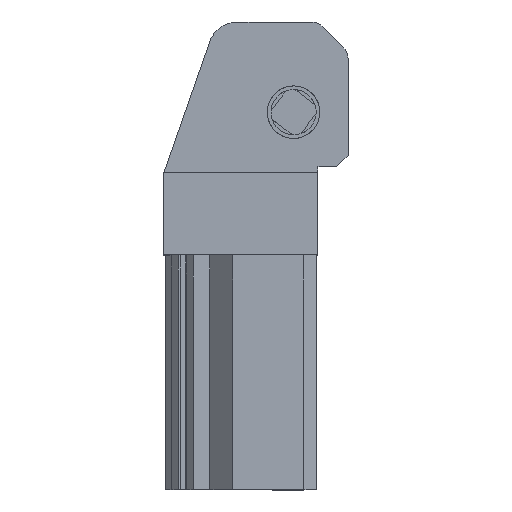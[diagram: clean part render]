
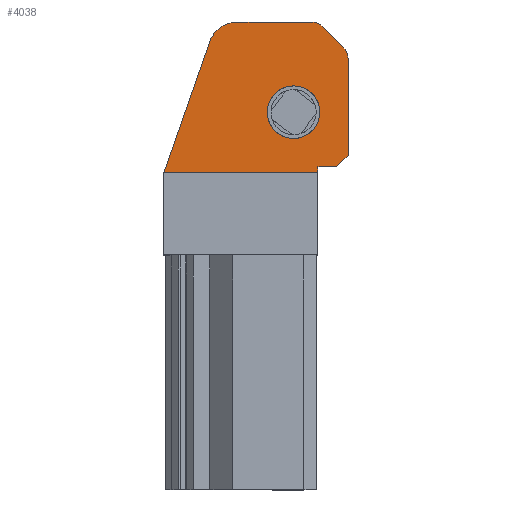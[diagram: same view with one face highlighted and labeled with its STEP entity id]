
A CAD part, top view. The second image highlights one B-rep face of the part: STEP entity #4038.
In plain terms, the highlighted planar face has unit normal (0, 0, 1).
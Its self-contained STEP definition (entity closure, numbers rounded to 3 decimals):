
#2 = LINE ( 'NONE', #3742, #6 ) ;
#6 = VECTOR ( 'NONE', #3743, 1000. ) ;
#41 = CIRCLE ( 'NONE', #2783, 4. ) ;
#48 = LINE ( 'NONE', #3886, #55 ) ;
#55 = VECTOR ( 'NONE', #3890, 1000. ) ;
#84 = LINE ( 'NONE', #3896, #86 ) ;
#86 = VECTOR ( 'NONE', #3905, 1000. ) ;
#92 = CIRCLE ( 'NONE', #2771, 7. ) ;
#107 = LINE ( 'NONE', #1857, #117 ) ;
#117 = VECTOR ( 'NONE', #1859, 1000. ) ;
#130 = LINE ( 'NONE', #1896, #132 ) ;
#132 = VECTOR ( 'NONE', #1871, 1000. ) ;
#319 = VERTEX_POINT ( 'NONE', #3791 ) ;
#390 = EDGE_LOOP ( 'NONE', ( #713, #714 ) ) ;
#413 = EDGE_LOOP ( 'NONE', ( #702, #703, #704, #705, #706, #707, #708, #709, #710, #711, #712 ) ) ;
#427 = VERTEX_POINT ( 'NONE', #3764 ) ;
#436 = VERTEX_POINT ( 'NONE', #3758 ) ;
#439 = VERTEX_POINT ( 'NONE', #3668 ) ;
#458 = VERTEX_POINT ( 'NONE', #3756 ) ;
#465 = VERTEX_POINT ( 'NONE', #3757 ) ;
#467 = VERTEX_POINT ( 'NONE', #3719 ) ;
#472 = VERTEX_POINT ( 'NONE', #3707 ) ;
#476 = VERTEX_POINT ( 'NONE', #3677 ) ;
#480 = VERTEX_POINT ( 'NONE', #3685 ) ;
#483 = VERTEX_POINT ( 'NONE', #3780 ) ;
#540 = AXIS2_PLACEMENT_3D ( 'NONE', #2327, #2332, #2333 ) ;
#560 = EDGE_CURVE ( 'NONE', #476, #458, #2209, .T. ) ;
#564 = EDGE_CURVE ( 'NONE', #483, #436, #2201, .T. ) ;
#568 = EDGE_CURVE ( 'NONE', #439, #465, #2213, .T. ) ;
#588 = EDGE_CURVE ( 'NONE', #4371, #483, #2, .T. ) ;
#613 = EDGE_CURVE ( 'NONE', #467, #319, #41, .T. ) ;
#619 = EDGE_CURVE ( 'NONE', #465, #467, #48, .T. ) ;
#638 = EDGE_CURVE ( 'NONE', #4385, #319, #84, .T. ) ;
#643 = EDGE_CURVE ( 'NONE', #427, #480, #92, .T. ) ;
#660 = EDGE_CURVE ( 'NONE', #436, #476, #107, .T. ) ;
#671 = EDGE_CURVE ( 'NONE', #458, #472, #130, .T. ) ;
#702 = ORIENTED_EDGE ( 'NONE', *, *, #619, .T. ) ;
#703 = ORIENTED_EDGE ( 'NONE', *, *, #613, .T. ) ;
#704 = ORIENTED_EDGE ( 'NONE', *, *, #638, .F. ) ;
#705 = ORIENTED_EDGE ( 'NONE', *, *, #2812, .T. ) ;
#706 = ORIENTED_EDGE ( 'NONE', *, *, #588, .T. ) ;
#707 = ORIENTED_EDGE ( 'NONE', *, *, #564, .T. ) ;
#708 = ORIENTED_EDGE ( 'NONE', *, *, #660, .T. ) ;
#709 = ORIENTED_EDGE ( 'NONE', *, *, #560, .T. ) ;
#710 = ORIENTED_EDGE ( 'NONE', *, *, #671, .T. ) ;
#711 = ORIENTED_EDGE ( 'NONE', *, *, #2819, .F. ) ;
#712 = ORIENTED_EDGE ( 'NONE', *, *, #568, .T. ) ;
#713 = ORIENTED_EDGE ( 'NONE', *, *, #643, .F. ) ;
#714 = ORIENTED_EDGE ( 'NONE', *, *, #3589, .F. ) ;
#1288 = FACE_OUTER_BOUND ( 'NONE', #413, .T. ) ;
#1306 = FACE_BOUND ( 'NONE', #390, .T. ) ;
#1555 = CIRCLE ( 'NONE', #2834, 8. ) ;
#1564 = LINE ( 'NONE', #3402, #1567 ) ;
#1567 = VECTOR ( 'NONE', #3413, 1000. ) ;
#1643 = CIRCLE ( 'NONE', #1826, 7. ) ;
#1826 = AXIS2_PLACEMENT_3D ( 'NONE', #3472, #3471, #3468 ) ;
#1857 = CARTESIAN_POINT ( 'NONE',  ( 6.5, 24., 15. ) ) ;
#1859 = DIRECTION ( 'NONE',  ( 0., 1., 0. ) ) ;
#1871 = DIRECTION ( 'NONE',  ( 0.707, 0.707, 0. ) ) ;
#1896 = CARTESIAN_POINT ( 'NONE',  ( 7.749, -18.251, 15. ) ) ;
#2200 = VECTOR ( 'NONE', #3642, 1000. ) ;
#2201 = LINE ( 'NONE', #3802, #2211 ) ;
#2209 = LINE ( 'NONE', #3762, #2200 ) ;
#2211 = VECTOR ( 'NONE', #3768, 1000. ) ;
#2213 = CIRCLE ( 'NONE', #2799, 4. ) ;
#2327 = CARTESIAN_POINT ( 'NONE',  ( -34.501, 24., 15. ) ) ;
#2330 = PLANE ( 'NONE',  #540 ) ;
#2332 = DIRECTION ( 'NONE',  ( 0., 0., -1. ) ) ;
#2333 = DIRECTION ( 'NONE',  ( 0., -1., 0. ) ) ;
#2527 = CARTESIAN_POINT ( 'NONE',  ( -22.375, 18.643, 15. ) ) ;
#2541 = CARTESIAN_POINT ( 'NONE',  ( -14.824, 24., 15. ) ) ;
#2771 = AXIS2_PLACEMENT_3D ( 'NONE', #3948, #3849, #3853 ) ;
#2783 = AXIS2_PLACEMENT_3D ( 'NONE', #3876, #3877, #3895 ) ;
#2799 = AXIS2_PLACEMENT_3D ( 'NONE', #3725, #3688, #3818 ) ;
#2812 = EDGE_CURVE ( 'NONE', #4385, #4371, #1555, .T. ) ;
#2819 = EDGE_CURVE ( 'NONE', #439, #472, #1564, .T. ) ;
#2834 = AXIS2_PLACEMENT_3D ( 'NONE', #3452, #3451, #3449 ) ;
#3402 = CARTESIAN_POINT ( 'NONE',  ( 14.5, 24., 15. ) ) ;
#3413 = DIRECTION ( 'NONE',  ( 0., -1., 0. ) ) ;
#3449 = DIRECTION ( 'NONE',  ( 0., -1., 0. ) ) ;
#3451 = DIRECTION ( 'NONE',  ( 0., 0., 1. ) ) ;
#3452 = CARTESIAN_POINT ( 'NONE',  ( -14.824, 16., 15. ) ) ;
#3468 = DIRECTION ( 'NONE',  ( 0., -1., 0. ) ) ;
#3471 = DIRECTION ( 'NONE',  ( 0., 0., 1. ) ) ;
#3472 = CARTESIAN_POINT ( 'NONE',  ( 0., 0., 15. ) ) ;
#3589 = EDGE_CURVE ( 'NONE', #480, #427, #1643, .T. ) ;
#3642 = DIRECTION ( 'NONE',  ( 1., 0., 0. ) ) ;
#3668 = CARTESIAN_POINT ( 'NONE',  ( 14.5, 14.343, 15. ) ) ;
#3677 = CARTESIAN_POINT ( 'NONE',  ( 6.5, -14.5, 15. ) ) ;
#3685 = CARTESIAN_POINT ( 'NONE',  ( -7., 0., 15. ) ) ;
#3688 = DIRECTION ( 'NONE',  ( 0., 0., 1. ) ) ;
#3707 = CARTESIAN_POINT ( 'NONE',  ( 14.5, -11.5, 15. ) ) ;
#3719 = CARTESIAN_POINT ( 'NONE',  ( 7.672, 22.828, 15. ) ) ;
#3725 = CARTESIAN_POINT ( 'NONE',  ( 10.5, 14.343, 15. ) ) ;
#3742 = CARTESIAN_POINT ( 'NONE',  ( -22.028, 19.634, 15. ) ) ;
#3743 = DIRECTION ( 'NONE',  ( -0.33, -0.944, 0. ) ) ;
#3756 = CARTESIAN_POINT ( 'NONE',  ( 11.5, -14.5, 15. ) ) ;
#3757 = CARTESIAN_POINT ( 'NONE',  ( 13.328, 17.172, 15. ) ) ;
#3758 = CARTESIAN_POINT ( 'NONE',  ( 6.5, -16., 15. ) ) ;
#3762 = CARTESIAN_POINT ( 'NONE',  ( -34.501, -14.5, 15. ) ) ;
#3764 = CARTESIAN_POINT ( 'NONE',  ( 7., 0., 15. ) ) ;
#3768 = DIRECTION ( 'NONE',  ( 1., 0., 0. ) ) ;
#3780 = CARTESIAN_POINT ( 'NONE',  ( -34.5, -16., 15. ) ) ;
#3791 = CARTESIAN_POINT ( 'NONE',  ( 4.843, 24., 15. ) ) ;
#3802 = CARTESIAN_POINT ( 'NONE',  ( -34.501, -16., 15. ) ) ;
#3818 = DIRECTION ( 'NONE',  ( 0., -1., 0. ) ) ;
#3849 = DIRECTION ( 'NONE',  ( 0., 0., 1. ) ) ;
#3853 = DIRECTION ( 'NONE',  ( 0., -1., 0. ) ) ;
#3876 = CARTESIAN_POINT ( 'NONE',  ( 4.843, 20., 15. ) ) ;
#3877 = DIRECTION ( 'NONE',  ( 0., 0., 1. ) ) ;
#3886 = CARTESIAN_POINT ( 'NONE',  ( -14.001, 44.501, 15. ) ) ;
#3890 = DIRECTION ( 'NONE',  ( -0.707, 0.707, 0. ) ) ;
#3895 = DIRECTION ( 'NONE',  ( 0., -1., 0. ) ) ;
#3896 = CARTESIAN_POINT ( 'NONE',  ( -34.501, 24., 15. ) ) ;
#3905 = DIRECTION ( 'NONE',  ( 1., 0., 0. ) ) ;
#3948 = CARTESIAN_POINT ( 'NONE',  ( 0., 0., 15. ) ) ;
#4038 = ADVANCED_FACE ( 'NONE', ( #1288, #1306 ), #2330, .F. ) ;
#4371 = VERTEX_POINT ( 'NONE', #2527 ) ;
#4385 = VERTEX_POINT ( 'NONE', #2541 ) ;
